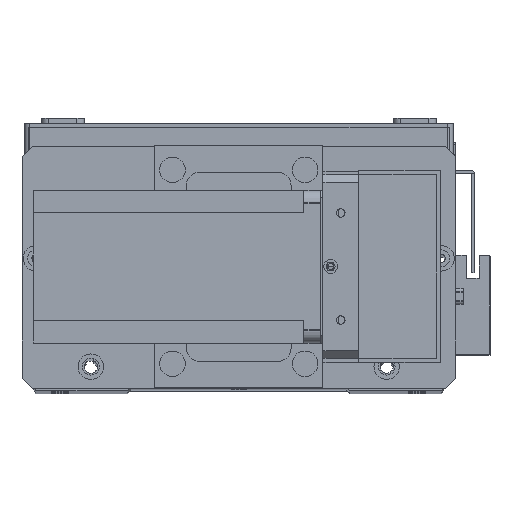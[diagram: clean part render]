
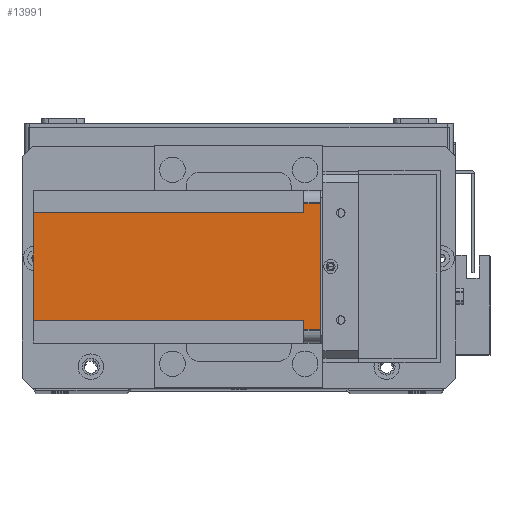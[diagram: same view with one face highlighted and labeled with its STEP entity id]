
A CAD part, top view. The second image highlights one B-rep face of the part: STEP entity #13991.
In plain terms, the highlighted planar face has unit normal (0, 0, 1) as drawn and (-1, 0, 0) by its records, which use the part's own axes.
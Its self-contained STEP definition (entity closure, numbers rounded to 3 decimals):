
#1471 = VERTEX_POINT ( 'NONE', #27956 ) ;
#1949 = DIRECTION ( 'NONE',  ( 0., 1., 0. ) ) ;
#2399 = EDGE_CURVE ( 'NONE', #11923, #19040, #4558, .T. ) ;
#2473 = VECTOR ( 'NONE', #12430, 1000. ) ;
#2801 = CARTESIAN_POINT ( 'NONE',  ( 0., 0., -6.5 ) ) ;
#2964 = DIRECTION ( 'NONE',  ( 0., 1., 0. ) ) ;
#3105 = CARTESIAN_POINT ( 'NONE',  ( 0., 5., 0. ) ) ;
#3844 = LINE ( 'NONE', #22923, #4498 ) ;
#3868 = LINE ( 'NONE', #19514, #9812 ) ;
#4221 = LINE ( 'NONE', #30611, #15695 ) ;
#4312 = VECTOR ( 'NONE', #1949, 1000. ) ;
#4498 = VECTOR ( 'NONE', #22995, 1000. ) ;
#4558 = LINE ( 'NONE', #2801, #4312 ) ;
#5660 = CARTESIAN_POINT ( 'NONE',  ( 0., 5., -6.5 ) ) ;
#7798 = EDGE_CURVE ( 'NONE', #8338, #12715, #8212, .T. ) ;
#7980 = CARTESIAN_POINT ( 'NONE',  ( 0., 9., -6.5 ) ) ;
#8118 = CARTESIAN_POINT ( 'NONE',  ( 0., 51., -112.5 ) ) ;
#8212 = LINE ( 'NONE', #8118, #8953 ) ;
#8338 = VERTEX_POINT ( 'NONE', #18802 ) ;
#8953 = VECTOR ( 'NONE', #15377, 1000. ) ;
#9794 = VECTOR ( 'NONE', #17406, 1000. ) ;
#9812 = VECTOR ( 'NONE', #19736, 1000. ) ;
#9968 = EDGE_CURVE ( 'NONE', #17724, #25115, #3844, .T. ) ;
#10016 = VERTEX_POINT ( 'NONE', #22114 ) ;
#10428 = EDGE_CURVE ( 'NONE', #8338, #1471, #13150, .T. ) ;
#10494 = CARTESIAN_POINT ( 'NONE',  ( 0., 55., 0. ) ) ;
#10692 = LINE ( 'NONE', #12221, #2473 ) ;
#10874 = ORIENTED_EDGE ( 'NONE', *, *, #17587, .F. ) ;
#11181 = ORIENTED_EDGE ( 'NONE', *, *, #10428, .T. ) ;
#11440 = ORIENTED_EDGE ( 'NONE', *, *, #7798, .F. ) ;
#11923 = VERTEX_POINT ( 'NONE', #5660 ) ;
#11924 = ORIENTED_EDGE ( 'NONE', *, *, #13848, .F. ) ;
#12027 = ORIENTED_EDGE ( 'NONE', *, *, #17703, .T. ) ;
#12221 = CARTESIAN_POINT ( 'NONE',  ( 0., 55., -112.5 ) ) ;
#12226 = ORIENTED_EDGE ( 'NONE', *, *, #9968, .F. ) ;
#12430 = DIRECTION ( 'NONE',  ( 0., 0., -1. ) ) ;
#12504 = ORIENTED_EDGE ( 'NONE', *, *, #13002, .T. ) ;
#12715 = VERTEX_POINT ( 'NONE', #25929 ) ;
#12933 = LINE ( 'NONE', #19275, #24695 ) ;
#13002 = EDGE_CURVE ( 'NONE', #11923, #25115, #3868, .T. ) ;
#13013 = ORIENTED_EDGE ( 'NONE', *, *, #2399, .F. ) ;
#13150 = LINE ( 'NONE', #17540, #9794 ) ;
#13848 = EDGE_CURVE ( 'NONE', #12715, #10016, #4221, .T. ) ;
#13991 = ADVANCED_FACE ( 'NONE', ( #19682 ), #30479, .T. ) ;
#15377 = DIRECTION ( 'NONE',  ( 0., 0., 1. ) ) ;
#15695 = VECTOR ( 'NONE', #2964, 1000. ) ;
#17406 = DIRECTION ( 'NONE',  ( 0., -1., 0. ) ) ;
#17540 = CARTESIAN_POINT ( 'NONE',  ( 0., 0., -112.5 ) ) ;
#17587 = EDGE_CURVE ( 'NONE', #19040, #1471, #12933, .T. ) ;
#17703 = EDGE_CURVE ( 'NONE', #17724, #10016, #10692, .T. ) ;
#17724 = VERTEX_POINT ( 'NONE', #10494 ) ;
#18489 = DIRECTION ( 'NONE',  ( 0., -1., 0. ) ) ;
#18802 = CARTESIAN_POINT ( 'NONE',  ( 0., 51., -112.5 ) ) ;
#18967 = DIRECTION ( 'NONE',  ( 0., 0., -1. ) ) ;
#19040 = VERTEX_POINT ( 'NONE', #7980 ) ;
#19275 = CARTESIAN_POINT ( 'NONE',  ( 0., 9., -112.5 ) ) ;
#19514 = CARTESIAN_POINT ( 'NONE',  ( 0., 5., -112.5 ) ) ;
#19682 = FACE_OUTER_BOUND ( 'NONE', #20604, .T. ) ;
#19736 = DIRECTION ( 'NONE',  ( 0., 0., 1. ) ) ;
#20604 = EDGE_LOOP ( 'NONE', ( #13013, #12504, #12226, #12027, #11924, #11440, #11181, #10874 ) ) ;
#22114 = CARTESIAN_POINT ( 'NONE',  ( 0., 55., -6.5 ) ) ;
#22923 = CARTESIAN_POINT ( 'NONE',  ( 0., 0., 0. ) ) ;
#22995 = DIRECTION ( 'NONE',  ( 0., -1., 0. ) ) ;
#24695 = VECTOR ( 'NONE', #18967, 1000. ) ;
#25115 = VERTEX_POINT ( 'NONE', #3105 ) ;
#25929 = CARTESIAN_POINT ( 'NONE',  ( 0., 51., -6.5 ) ) ;
#27865 = DIRECTION ( 'NONE',  ( -1., 0., 0. ) ) ;
#27866 = AXIS2_PLACEMENT_3D ( 'NONE', #29988, #27865, #18489 ) ;
#27956 = CARTESIAN_POINT ( 'NONE',  ( 0., 9., -112.5 ) ) ;
#29988 = CARTESIAN_POINT ( 'NONE',  ( 0., 0., -112.5 ) ) ;
#30479 = PLANE ( 'NONE',  #27866 ) ;
#30611 = CARTESIAN_POINT ( 'NONE',  ( 0., 60., -6.5 ) ) ;
